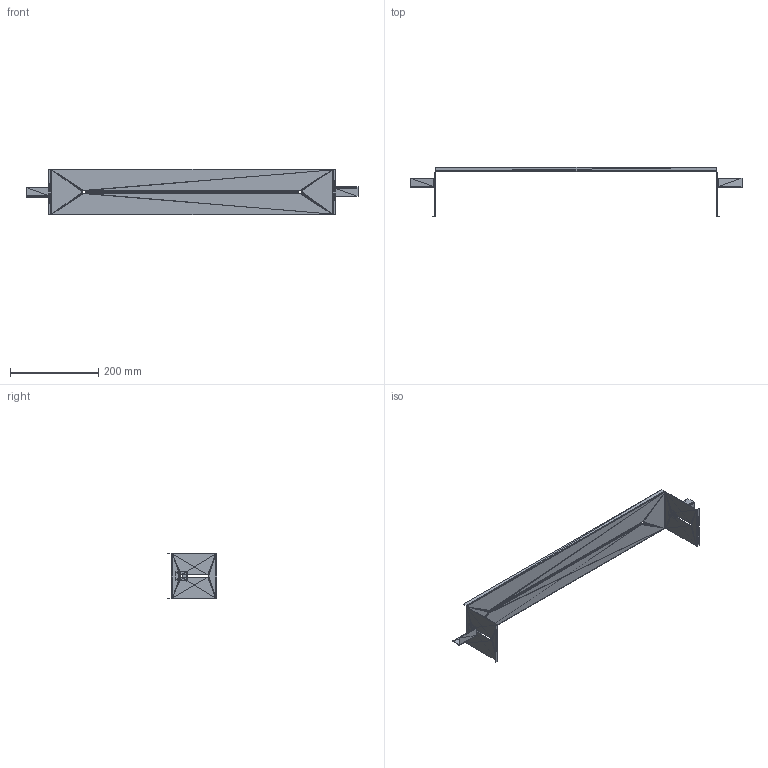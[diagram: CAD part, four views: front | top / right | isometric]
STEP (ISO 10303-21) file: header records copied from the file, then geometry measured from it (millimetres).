
FILE_DESCRIPTION((''),'2;1');
FILE_NAME('003588', '2025-08-11T08:50:18', (''), (''), 'ImageToStl.com STEP Converter','', '');
FILE_SCHEMA(('AUTOMOTIVE_DESIGN_CC2'));
Length unit declared in the file: metre
Products named in the file (1): product0
Bounding box: 751 x 111 x 104 mm (x, y, z)
Surface area: 208316.3 mm2 (no closed solid volume)
Topology: 0 solids, 932 shells, 932 faces, 2796 edges, 460 vertices
Faces by surface type: plane 932
Entity records: 21452 total; most frequent: DIRECTION 4662, ORIENTED_EDGE 2796, EDGE_CURVE 2796, LINE 2796, VECTOR 2796, AXIS2_PLACEMENT_3D 933, FACE_SURFACE 932, PLANE 932
